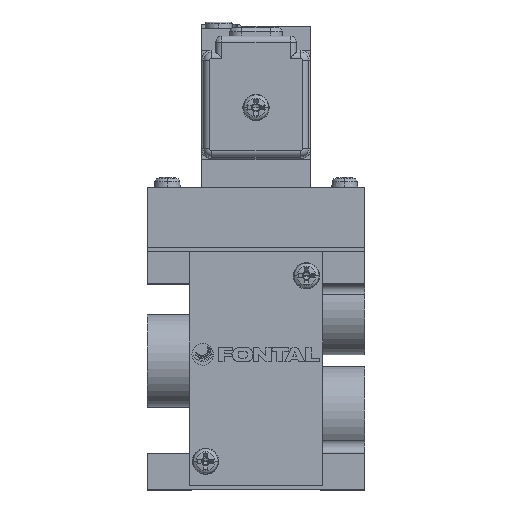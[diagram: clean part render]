
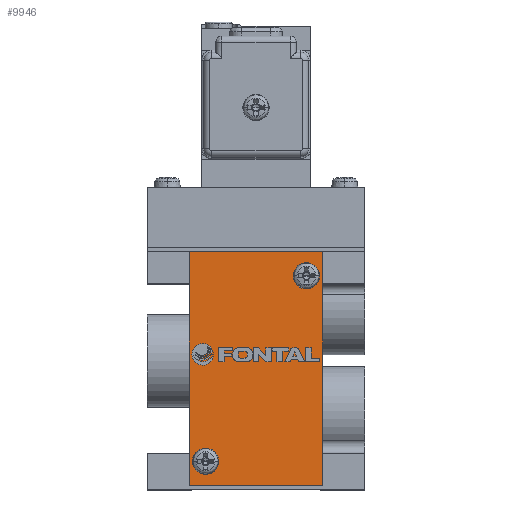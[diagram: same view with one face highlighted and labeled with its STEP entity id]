
A CAD part, top view. The second image highlights one B-rep face of the part: STEP entity #9946.
In plain terms, the highlighted planar face has unit normal (0, 0, 1).
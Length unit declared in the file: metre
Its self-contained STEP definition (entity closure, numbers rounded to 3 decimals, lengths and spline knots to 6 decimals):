
#35 = FACE_OUTER_BOUND ( 'NONE', #13792, .T. ) ;
#44 = PLANE ( 'NONE',  #276 ) ;
#276 = AXIS2_PLACEMENT_3D ( 'NONE', #8164, #11639, #4731 ) ;
#929 = CARTESIAN_POINT ( 'NONE',  ( 0.0125, 0.023, 0.0016 ) ) ;
#1337 = VECTOR ( 'NONE', #2714, 1. ) ;
#1381 = ORIENTED_EDGE ( 'NONE', *, *, #6867, .F. ) ;
#1439 = VECTOR ( 'NONE', #3122, 1. ) ;
#1512 = CIRCLE ( 'NONE', #6289, 0.002 ) ;
#1517 = CIRCLE ( 'NONE', #12142, 0.002 ) ;
#1590 = CIRCLE ( 'NONE', #6761, 0.002 ) ;
#1670 = VERTEX_POINT ( 'NONE', #13247 ) ;
#2109 = DIRECTION ( 'NONE',  ( 1., 0., 0. ) ) ;
#2457 = VECTOR ( 'NONE', #9548, 1. ) ;
#2714 = DIRECTION ( 'NONE',  ( 0., -1., 0. ) ) ;
#2822 = LINE ( 'NONE', #7200, #2457 ) ;
#2945 = CARTESIAN_POINT ( 'NONE',  ( 0.0125, 0.023, 0.0016 ) ) ;
#3122 = DIRECTION ( 'NONE',  ( -1., 0., 0. ) ) ;
#3369 = EDGE_CURVE ( 'NONE', #13368, #10406, #1517, .T. ) ;
#3879 = CARTESIAN_POINT ( 'NONE',  ( 0.0165, 0., 0.0016 ) ) ;
#4117 = DIRECTION ( 'NONE',  ( 1., 0., 0. ) ) ;
#4278 = CARTESIAN_POINT ( 'NONE',  ( -0.0165, -0.029, 0.0016 ) ) ;
#4716 = CARTESIAN_POINT ( 'NONE',  ( -0.0165, 0.029, 0.0016 ) ) ;
#4731 = DIRECTION ( 'NONE',  ( -1., 0., 0. ) ) ;
#4808 = CARTESIAN_POINT ( 'NONE',  ( -0.0125, -0.023, 0.0016 ) ) ;
#5186 = EDGE_CURVE ( 'NONE', #11875, #9713, #10671, .T. ) ;
#5196 = CARTESIAN_POINT ( 'NONE',  ( 0.0105, 0.023, 0.0016 ) ) ;
#5571 = CARTESIAN_POINT ( 'NONE',  ( 0.0165, 0.029, 0.0016 ) ) ;
#5720 = CARTESIAN_POINT ( 'NONE',  ( 0., 0.029, 0.0016 ) ) ;
#5975 = DIRECTION ( 'NONE',  ( 1., 0., 0. ) ) ;
#6062 = DIRECTION ( 'NONE',  ( 0., 0., 1. ) ) ;
#6168 = EDGE_CURVE ( 'NONE', #1670, #7365, #12422, .T. ) ;
#6206 = FACE_BOUND ( 'NONE', #8441, .T. ) ;
#6257 = EDGE_CURVE ( 'NONE', #9713, #13266, #2822, .T. ) ;
#6289 = AXIS2_PLACEMENT_3D ( 'NONE', #929, #9045, #2109 ) ;
#6557 = EDGE_CURVE ( 'NONE', #13266, #11163, #14571, .T. ) ;
#6761 = AXIS2_PLACEMENT_3D ( 'NONE', #12981, #6062, #14146 ) ;
#6867 = EDGE_CURVE ( 'NONE', #11163, #11875, #10569, .T. ) ;
#7138 = EDGE_CURVE ( 'NONE', #10406, #13368, #1512, .T. ) ;
#7200 = CARTESIAN_POINT ( 'NONE',  ( -0.0165, 0., 0.0016 ) ) ;
#7365 = VERTEX_POINT ( 'NONE', #12085 ) ;
#7656 = CARTESIAN_POINT ( 'NONE',  ( 0.0165, -0.029, 0.0016 ) ) ;
#7817 = ORIENTED_EDGE ( 'NONE', *, *, #12836, .F. ) ;
#8164 = CARTESIAN_POINT ( 'NONE',  ( 0.0165, -0.029, 0.0016 ) ) ;
#8441 = EDGE_LOOP ( 'NONE', ( #8969, #14607 ) ) ;
#8969 = ORIENTED_EDGE ( 'NONE', *, *, #7138, .F. ) ;
#9045 = DIRECTION ( 'NONE',  ( 0., 0., 1. ) ) ;
#9548 = DIRECTION ( 'NONE',  ( 0., 1., 0. ) ) ;
#9713 = VERTEX_POINT ( 'NONE', #4278 ) ;
#9865 = ORIENTED_EDGE ( 'NONE', *, *, #6168, .F. ) ;
#9946 = ADVANCED_FACE ( 'NONE', ( #6206, #13440, #35 ), #44, .F. ) ;
#10406 = VERTEX_POINT ( 'NONE', #14628 ) ;
#10527 = AXIS2_PLACEMENT_3D ( 'NONE', #4808, #12890, #5975 ) ;
#10569 = LINE ( 'NONE', #3879, #1337 ) ;
#10671 = LINE ( 'NONE', #11197, #1439 ) ;
#11018 = DIRECTION ( 'NONE',  ( 0., 0., 1. ) ) ;
#11163 = VERTEX_POINT ( 'NONE', #5571 ) ;
#11197 = CARTESIAN_POINT ( 'NONE',  ( 0., -0.029, 0.0016 ) ) ;
#11639 = DIRECTION ( 'NONE',  ( 0., 0., -1. ) ) ;
#11855 = VECTOR ( 'NONE', #12646, 1. ) ;
#11875 = VERTEX_POINT ( 'NONE', #7656 ) ;
#12085 = CARTESIAN_POINT ( 'NONE',  ( -0.0105, -0.023, 0.0016 ) ) ;
#12142 = AXIS2_PLACEMENT_3D ( 'NONE', #2945, #11018, #4117 ) ;
#12226 = ORIENTED_EDGE ( 'NONE', *, *, #6557, .F. ) ;
#12280 = EDGE_LOOP ( 'NONE', ( #7817, #9865 ) ) ;
#12422 = CIRCLE ( 'NONE', #10527, 0.002 ) ;
#12644 = ORIENTED_EDGE ( 'NONE', *, *, #5186, .F. ) ;
#12646 = DIRECTION ( 'NONE',  ( 1., 0., 0. ) ) ;
#12836 = EDGE_CURVE ( 'NONE', #7365, #1670, #1590, .T. ) ;
#12890 = DIRECTION ( 'NONE',  ( 0., 0., 1. ) ) ;
#12981 = CARTESIAN_POINT ( 'NONE',  ( -0.0125, -0.023, 0.0016 ) ) ;
#13247 = CARTESIAN_POINT ( 'NONE',  ( -0.0145, -0.023, 0.0016 ) ) ;
#13266 = VERTEX_POINT ( 'NONE', #4716 ) ;
#13368 = VERTEX_POINT ( 'NONE', #5196 ) ;
#13398 = ORIENTED_EDGE ( 'NONE', *, *, #6257, .F. ) ;
#13440 = FACE_BOUND ( 'NONE', #12280, .T. ) ;
#13792 = EDGE_LOOP ( 'NONE', ( #12226, #13398, #12644, #1381 ) ) ;
#14146 = DIRECTION ( 'NONE',  ( 1., 0., 0. ) ) ;
#14571 = LINE ( 'NONE', #5720, #11855 ) ;
#14607 = ORIENTED_EDGE ( 'NONE', *, *, #3369, .F. ) ;
#14628 = CARTESIAN_POINT ( 'NONE',  ( 0.0145, 0.023, 0.0016 ) ) ;
